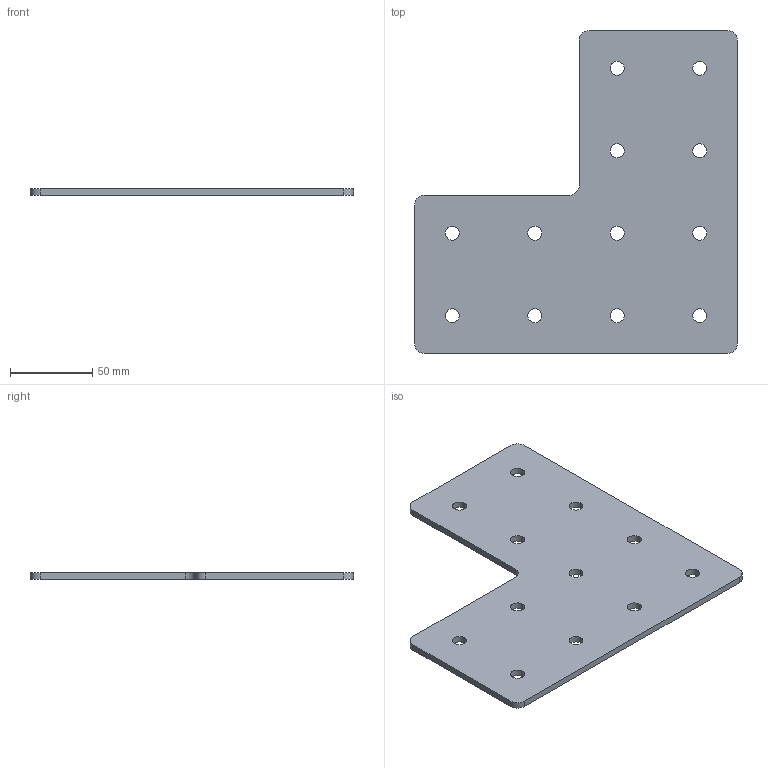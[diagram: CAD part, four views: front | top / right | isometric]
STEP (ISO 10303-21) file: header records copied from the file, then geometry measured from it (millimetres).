
FILE_DESCRIPTION (( 'STEP AP203' ), '1' );
FILE_NAME ('Ã-12-50.STEP', '2017-03-22T09:47:10', ( 'RosInstal-MKM' ), ( '' ), 'SwSTEP 2.0', 'SolidWorks 2014', '' );
FILE_SCHEMA (( 'CONFIG_CONTROL_DESIGN' ));
Length unit declared in the file: millimetre
Products named in the file (1): ﾃ-12-50
Bounding box: 196 x 196 x 4 mm (x, y, z)
Volume: 110816.6 mm3; surface area: 59764.3 mm2
Topology: 1 solids, 1 shells, 38 faces, 108 edges, 72 vertices
Faces by surface type: cylinder 30, plane 8
Entity records: 1397 total; most frequent: DIRECTION 246, CARTESIAN_POINT 219, ORIENTED_EDGE 216, EDGE_CURVE 108, AXIS2_PLACEMENT_3D 99, VERTEX_POINT 72, EDGE_LOOP 62, CIRCLE 60
